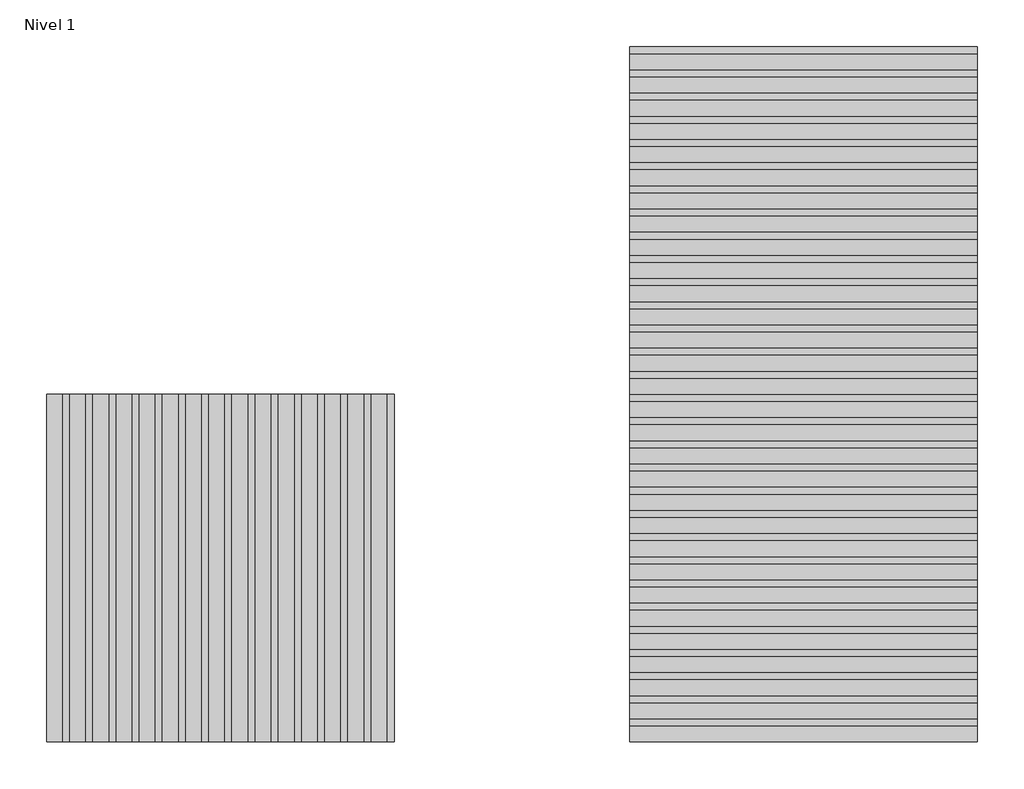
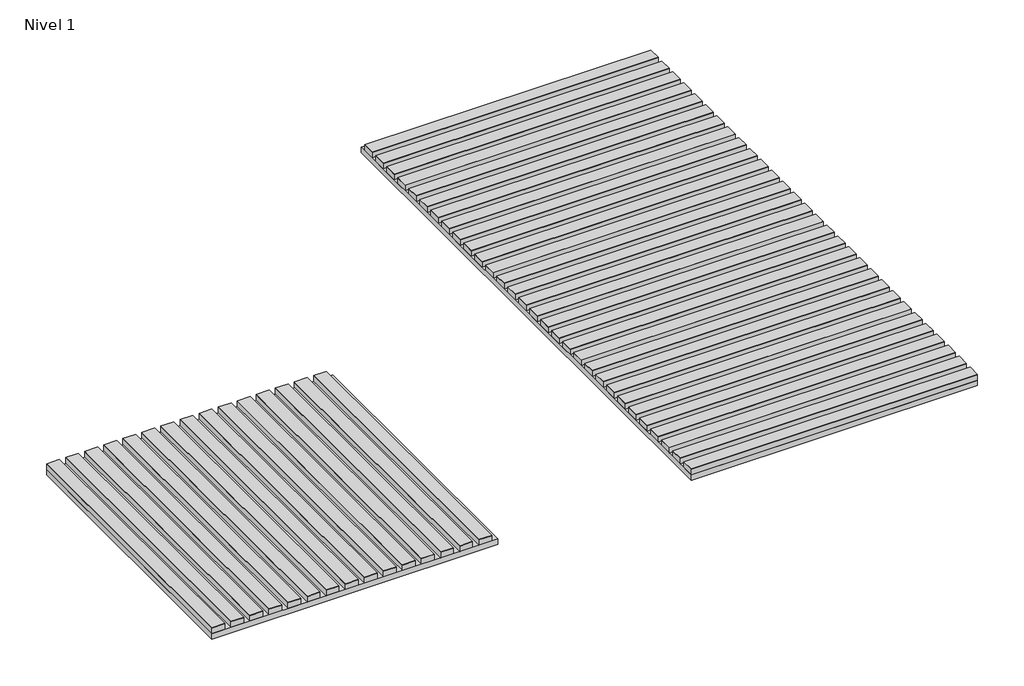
# One storey: 2 proxies.
"""IFC4 building model written with IfcOpenShell, lengths in millimetres."""

from ifc_helpers import new_model, si_unit, origin, place, context, project, spatial, transform, mapped, element, save
from components import generic_models_8722149c, generic_models_d855582b

model = new_model("IFC4")

# Units and contexts
model_context = context("Model", 3, world=origin())
ifc_project = project(units=[si_unit("LENGTHUNIT", "METRE", prefix="MILLI")], contexts=[model_context])

# Site, building, storey
site = spatial("IfcSite", under=ifc_project)
building = spatial("IfcBuilding", under=site)
storey = spatial("IfcBuildingStorey", under=building, Name="Nivel 1", Elevation=0.0)

# Proxies
placement = place(None, origin())
generic_models_shape = generic_models_8722149c(model_context)
element("IfcBuildingElementProxy", 1, Name="MODELO3D_PLAFON_ARIES 1.3dm", ObjectType="MODELO3D_PLAFON_ARIES 1.3dm", at=placement, inside=storey, context=model_context, shape_type="MappedRepresentation", body=[
    mapped(generic_models_shape, transform((0.0, 0.0, 0.0), x_axis=(1.0, 0.0, 0.0), y_axis=(0.0, 1.0, 0.0), z_axis=(0.0, 0.0, 1.0))),
])
generic_models_2_shape = generic_models_d855582b(model_context)
element("IfcBuildingElementProxy", 2, Name="MODELO3D_PLAFON_ARIES 2.3dm", ObjectType="MODELO3D_PLAFON_ARIES 2.3dm", at=placement, inside=storey, context=model_context, shape_type="MappedRepresentation", body=[
    mapped(generic_models_2_shape, transform((0.0, 0.0, 0.0), x_axis=(1.0, 0.0, 0.0), y_axis=(0.0, 1.0, 0.0), z_axis=(0.0, 0.0, 1.0))),
])

save(model, "model.ifc")
